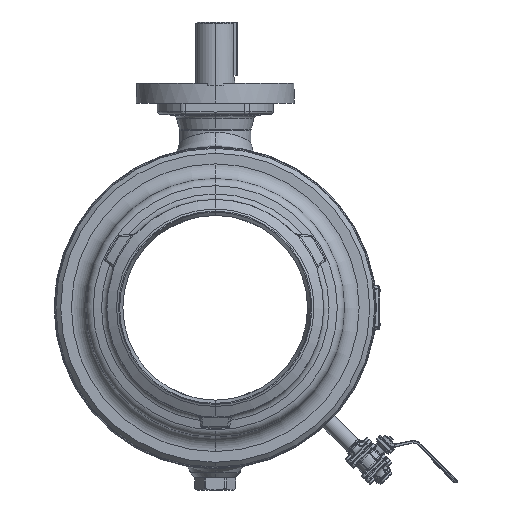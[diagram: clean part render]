
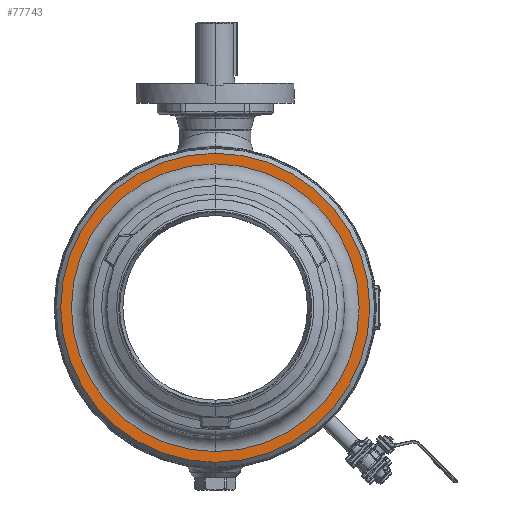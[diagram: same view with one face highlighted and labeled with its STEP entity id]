
A CAD part, left-side view. The second image highlights one B-rep face of the part: STEP entity #77743.
In plain terms, the highlighted planar face has unit normal (-1, 0, 0).
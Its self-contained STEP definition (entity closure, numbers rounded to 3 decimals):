
#20854=CARTESIAN_POINT('',(-175.5,0.,0.));
#20855=DIRECTION('',(-1.,0.,0.));
#20856=DIRECTION('',(0.,0.,1.));
#20857=AXIS2_PLACEMENT_3D('',#20854,#20855,#20856);
#20859=CARTESIAN_POINT('',(-175.5,0.,0.));
#20860=DIRECTION('',(-1.,0.,0.));
#20861=DIRECTION('',(0.,0.,-1.));
#20862=AXIS2_PLACEMENT_3D('',#20859,#20860,#20861);
#20864=CARTESIAN_POINT('',(-175.5,0.,0.));
#20865=DIRECTION('',(1.,0.,0.));
#20866=DIRECTION('',(0.,0.,-1.));
#20867=AXIS2_PLACEMENT_3D('',#20864,#20865,#20866);
#20869=CARTESIAN_POINT('',(-175.5,0.,0.));
#20870=DIRECTION('',(1.,0.,0.));
#20871=DIRECTION('',(0.,0.,1.));
#20872=AXIS2_PLACEMENT_3D('',#20869,#20870,#20871);
#34128=CARTESIAN_POINT('',(-175.5,0.,-296.));
#34129=CARTESIAN_POINT('',(-175.5,0.,296.));
#34130=VERTEX_POINT('',#34128);
#34131=VERTEX_POINT('',#34129);
#34385=CARTESIAN_POINT('',(-175.5,0.,318.));
#34386=CARTESIAN_POINT('',(-175.5,0.,-318.));
#34387=VERTEX_POINT('',#34385);
#34388=VERTEX_POINT('',#34386);
#77727=CARTESIAN_POINT('',(-175.5,0.,0.));
#77728=DIRECTION('',(-1.,0.,0.));
#77729=DIRECTION('',(0.,0.,1.));
#77730=AXIS2_PLACEMENT_3D('',#77727,#77728,#77729);
#77731=PLANE('',#77730);
#77733=ORIENTED_EDGE('',*,*,#77732,.F.);
#77734=ORIENTED_EDGE('',*,*,#77717,.F.);
#77735=EDGE_LOOP('',(#77733,#77734));
#77736=FACE_OUTER_BOUND('',#77735,.F.);
#77738=ORIENTED_EDGE('',*,*,#77737,.F.);
#77740=ORIENTED_EDGE('',*,*,#77739,.F.);
#77741=EDGE_LOOP('',(#77738,#77740));
#77742=FACE_BOUND('',#77741,.F.);
#77743=ADVANCED_FACE('',(#77736,#77742),#77731,.T.);
#20858=CIRCLE('',#20857,318.);
#20863=CIRCLE('',#20862,318.);
#20868=CIRCLE('',#20867,296.);
#20873=CIRCLE('',#20872,296.);
#77717=EDGE_CURVE('',#34388,#34387,#20863,.T.);
#77732=EDGE_CURVE('',#34387,#34388,#20858,.T.);
#77737=EDGE_CURVE('',#34130,#34131,#20868,.T.);
#77739=EDGE_CURVE('',#34131,#34130,#20873,.T.);
